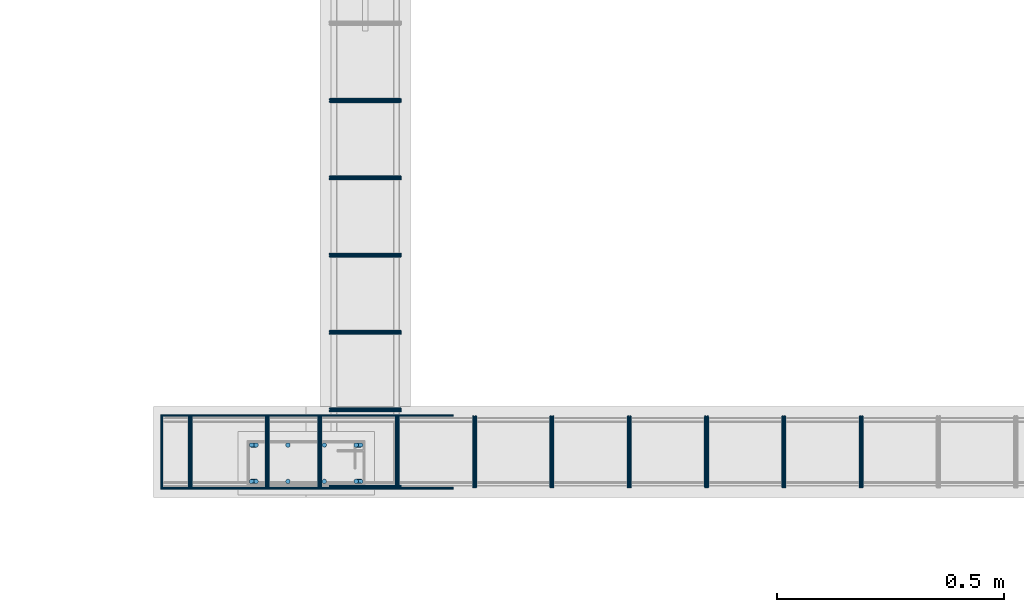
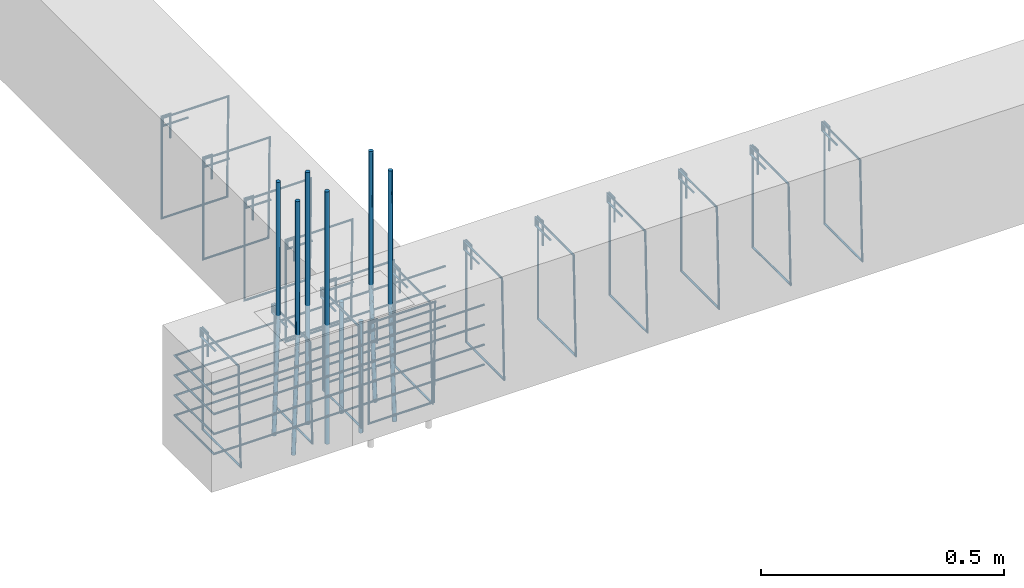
# One storey, part 19 of 150: 28 reinforcing bars.
"""IFC4 building model written with IfcOpenShell, lengths in centimetres."""

from ifc_helpers import new_model, entity, si_unit, derived_unit, frame, origin_with_axes, place, context, project, spatial, source, transform, mapped, element, save


model = new_model("IFC4")

# Units and contexts
model_context = context("Model", 3, precision=1e-05, world=origin_with_axes(), identifier="Body")
ifc_project = project(units=[si_unit("LENGTHUNIT", "METRE", prefix="CENTI"), si_unit("VOLUMEUNIT", "CUBIC_METRE"), si_unit("AREAUNIT", "SQUARE_METRE"), si_unit("POWERUNIT", "WATT"), si_unit("LUMINOUSFLUXUNIT", "LUMEN"), si_unit("ELECTRICCURRENTUNIT", "AMPERE"), si_unit("PRESSUREUNIT", "PASCAL", prefix="KILO"), si_unit("MASSUNIT", "GRAM", prefix="KILO"), si_unit("PLANEANGLEUNIT", "RADIAN"), derived_unit("VOLUMETRICFLOWRATEUNIT", [(si_unit("LENGTHUNIT", "METRE"), 3), (si_unit("TIMEUNIT", "SECOND"), -1)])], contexts=[model_context])

# Site, building, storey
site_placement = place(None, frame((-4000.0, 0.0, 0.0), z_axis=(0.0, 0.0, 1.0), x_axis=(1.0, 0.0, 0.0)))
site = spatial("IfcSite", under=ifc_project, at=site_placement, Name="PADRÃO")
building_placement = place(site_placement, frame((0.0, 0.0, -14.0)))
building = spatial("IfcBuilding", under=site, at=building_placement, Name="CRECHE PRÉ-ESCOLA TIPO 2")
placement = place(building_placement, origin_with_axes())
storey_placement = place(placement, frame((0.0, 0.0, 30.0), z_axis=(0.0, 0.0, 1.0), x_axis=(1.0, 0.0, 0.0)))
storey = spatial("IfcBuildingStorey", under=building, at=storey_placement, Name="VIGA BALDRAME", CompositionType="ELEMENT", Elevation=16.0)

# Reinforcing bars
shared_shape_1 = source(origin_with_axes(), model_context, "Body", "AdvancedSweptSolid", [
    entity("IfcSweptDiskSolid", entity("IfcCompositeCurve", [entity("IfcCompositeCurveSegment", "CONTINUOUS", True, entity("IfcPolyline", [entity("IfcCartesianPoint", [2.0, -6.0, 0.0]), entity("IfcCartesianPoint", [2.0, 0.0, 0.0])])), entity("IfcCompositeCurveSegment", "CONTINUOUS", True, entity("IfcPolyline", [entity("IfcCartesianPoint", [2.0, 0.0, 0.0]), entity("IfcCartesianPoint", [0.0, 0.0, 0.0])])), entity("IfcCompositeCurveSegment", "CONTINUOUS", True, entity("IfcPolyline", [entity("IfcCartesianPoint", [0.0, 0.0, 0.0]), entity("IfcCartesianPoint", [0.0, -25.5, 0.0])])), entity("IfcCompositeCurveSegment", "CONTINUOUS", True, entity("IfcPolyline", [entity("IfcCartesianPoint", [0.0, -25.5, 0.0]), entity("IfcCartesianPoint", [15.5, -25.5, 0.0])])), entity("IfcCompositeCurveSegment", "CONTINUOUS", True, entity("IfcPolyline", [entity("IfcCartesianPoint", [15.5, -25.5, 0.0]), entity("IfcCartesianPoint", [15.5, 0.0, 0.5])])), entity("IfcCompositeCurveSegment", "CONTINUOUS", True, entity("IfcPolyline", [entity("IfcCartesianPoint", [15.5, 0.0, 0.5]), entity("IfcCartesianPoint", [0.0, 0.0, 0.5])])), entity("IfcCompositeCurveSegment", "CONTINUOUS", True, entity("IfcPolyline", [entity("IfcCartesianPoint", [0.0, 0.0, 0.5]), entity("IfcCartesianPoint", [0.0, -2.0, 0.5])])), entity("IfcCompositeCurveSegment", "CONTINUOUS", True, entity("IfcPolyline", [entity("IfcCartesianPoint", [0.0, -2.0, 0.5]), entity("IfcCartesianPoint", [6.0, -2.0, 0.5])]))], False), 0.25),
])
for number, where, z_axis, x_axis, name in (
    (1, (240.75, 525.25, -2.25), (-1.0, 0.0, 0.0), (0.0, -1.0, 0.0), "V149 - Estribo"),
    (2, (257.75, 525.25, -2.25), (-1.0, 0.0, 0.0), (0.0, -1.0, 0.0), "V149 - Estribo"),
):
    element("IfcReinforcingBar", number, at=place(storey_placement, frame(where, z_axis=z_axis, x_axis=x_axis)), inside=storey, Name=name, BarLength=0.0, CrossSectionArea=1.9634954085e-05, NominalDiameter=0.5, PredefinedType="MAIN", context=model_context, shape_type="MappedRepresentation", body=[
        mapped(shared_shape_1, transform((0.0, 0.0, 0.0), scale=1.0)),
    ])
shared_shape_2 = source(origin_with_axes(), model_context, "Body", "AdvancedSweptSolid", [
    entity("IfcSweptDiskSolid", entity("IfcCompositeCurve", [entity("IfcCompositeCurveSegment", "CONTINUOUS", True, entity("IfcPolyline", [entity("IfcCartesianPoint", [2.0, -6.0, 0.0]), entity("IfcCartesianPoint", [2.0, 0.0, 0.0])])), entity("IfcCompositeCurveSegment", "CONTINUOUS", True, entity("IfcPolyline", [entity("IfcCartesianPoint", [2.0, 0.0, 0.0]), entity("IfcCartesianPoint", [0.0, 0.0, 0.0])])), entity("IfcCompositeCurveSegment", "CONTINUOUS", True, entity("IfcPolyline", [entity("IfcCartesianPoint", [0.0, 0.0, 0.0]), entity("IfcCartesianPoint", [0.0, -25.5, 0.0])])), entity("IfcCompositeCurveSegment", "CONTINUOUS", True, entity("IfcPolyline", [entity("IfcCartesianPoint", [0.0, -25.5, 0.0]), entity("IfcCartesianPoint", [15.5, -25.5, 0.0])])), entity("IfcCompositeCurveSegment", "CONTINUOUS", True, entity("IfcPolyline", [entity("IfcCartesianPoint", [15.5, -25.5, 0.0]), entity("IfcCartesianPoint", [15.5, 0.0, 0.5])])), entity("IfcCompositeCurveSegment", "CONTINUOUS", True, entity("IfcPolyline", [entity("IfcCartesianPoint", [15.5, 0.0, 0.5]), entity("IfcCartesianPoint", [0.0, 0.0, 0.5])])), entity("IfcCompositeCurveSegment", "CONTINUOUS", True, entity("IfcPolyline", [entity("IfcCartesianPoint", [0.0, 0.0, 0.5]), entity("IfcCartesianPoint", [0.0, -2.0, 0.5])])), entity("IfcCompositeCurveSegment", "CONTINUOUS", True, entity("IfcPolyline", [entity("IfcCartesianPoint", [0.0, -2.0, 0.5]), entity("IfcCartesianPoint", [6.0, -2.0, 0.5])]))], False), 0.25),
])
for number, where, z_axis, x_axis, name in (
    (3, (269.285, 525.25, -2.25), (-1.0, 0.0, 0.0), (0.0, -1.0, 0.0), "V149 - Estribo"),
    (4, (320.285, 525.25, -2.25), (-1.0, 0.0, 0.0), (0.0, -1.0, 0.0), "V149 - Estribo"),
    (5, (388.285, 525.25, -2.25), (-1.0, 0.0, 0.0), (0.0, -1.0, 0.0), "V149 - Estribo"),
    (6, (371.285, 525.25, -2.25), (-1.0, 0.0, 0.0), (0.0, -1.0, 0.0), "V149 - Estribo"),
    (7, (337.285, 525.25, -2.25), (-1.0, 0.0, 0.0), (0.0, -1.0, 0.0), "V149 - Estribo"),
    (8, (303.285, 525.25, -2.25), (-1.0, 0.0, 0.0), (0.0, -1.0, 0.0), "V149 - Estribo"),
    (9, (286.285, 525.25, -2.25), (-1.0, 0.0, 0.0), (0.0, -1.0, 0.0), "V149 - Estribo"),
    (10, (354.285, 525.25, -2.25), (-1.0, 0.0, 0.0), (0.0, -1.0, 0.0), "V149 - Estribo"),
):
    element("IfcReinforcingBar", number, at=place(storey_placement, frame(where, z_axis=z_axis, x_axis=x_axis)), inside=storey, Name=name, BarLength=0.0, CrossSectionArea=1.9634954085e-05, NominalDiameter=0.5, PredefinedType="MAIN", context=model_context, shape_type="MappedRepresentation", body=[
        mapped(shared_shape_2, transform((0.0, 0.0, 0.0), scale=1.0)),
    ])
shared_shape_3 = source(origin_with_axes(), model_context, "Body", "AdvancedSweptSolid", [
    entity("IfcSweptDiskSolid", entity("IfcCompositeCurve", [entity("IfcCompositeCurveSegment", "CONTINUOUS", True, entity("IfcPolyline", [entity("IfcCartesianPoint", [0.0, 0.0, 0.0]), entity("IfcCartesianPoint", [-64.2013828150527, 0.0, 0.0])])), entity("IfcCompositeCurveSegment", "CONTINUOUS", True, entity("IfcPolyline", [entity("IfcCartesianPoint", [-64.2013828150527, 0.0, 0.0]), entity("IfcCartesianPoint", [-64.2013828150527, -16.0, 0.0])])), entity("IfcCompositeCurveSegment", "CONTINUOUS", True, entity("IfcPolyline", [entity("IfcCartesianPoint", [-64.2013828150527, -16.0, 0.0]), entity("IfcCartesianPoint", [0.0, -16.0, 0.0])]))], False), 0.25),
])
for number, where, z_axis, x_axis, name in (
    (11, (298.451382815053, 525.5, -22.1), (0.0, 0.0, 1.0), (1.0, 0.0, 0.0), "V149 - Grampo"),
    (12, (298.451382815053, 525.5, -7.1), (0.0, 0.0, 1.0), (1.0, 0.0, 0.0), "V149 - Grampo"),
    (13, (298.451382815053, 525.5, -12.1), (0.0, 0.0, 1.0), (1.0, 0.0, 0.0), "V149 - Grampo"),
    (14, (298.451382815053, 525.5, -17.1), (0.0, 0.0, 1.0), (1.0, 0.0, 0.0), "V149 - Grampo"),
):
    element("IfcReinforcingBar", number, at=place(storey_placement, frame(where, z_axis=z_axis, x_axis=x_axis)), inside=storey, Name=name, BarLength=0.0, CrossSectionArea=1.9634954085e-05, NominalDiameter=0.5, PredefinedType="MAIN", context=model_context, shape_type="MappedRepresentation", body=[
        mapped(shared_shape_3, transform((0.0, 0.0, 0.0), scale=1.0)),
    ])
shared_shape_4 = source(origin_with_axes(), model_context, "Body", "AdvancedSweptSolid", [
    entity("IfcSweptDiskSolid", entity("IfcCompositeCurve", [entity("IfcCompositeCurveSegment", "CONTINUOUS", True, entity("IfcPolyline", [entity("IfcCartesianPoint", [2.0, -6.0, 0.0]), entity("IfcCartesianPoint", [2.0, 0.0, 0.0])])), entity("IfcCompositeCurveSegment", "CONTINUOUS", True, entity("IfcPolyline", [entity("IfcCartesianPoint", [2.0, 0.0, 0.0]), entity("IfcCartesianPoint", [0.0, 0.0, 0.0])])), entity("IfcCompositeCurveSegment", "CONTINUOUS", True, entity("IfcPolyline", [entity("IfcCartesianPoint", [0.0, 0.0, 0.0]), entity("IfcCartesianPoint", [0.0, -25.5, 0.0])])), entity("IfcCompositeCurveSegment", "CONTINUOUS", True, entity("IfcPolyline", [entity("IfcCartesianPoint", [0.0, -25.5, 0.0]), entity("IfcCartesianPoint", [15.5, -25.5, 0.0])])), entity("IfcCompositeCurveSegment", "CONTINUOUS", True, entity("IfcPolyline", [entity("IfcCartesianPoint", [15.5, -25.5, 0.0]), entity("IfcCartesianPoint", [15.5, 0.0, 0.5])])), entity("IfcCompositeCurveSegment", "CONTINUOUS", True, entity("IfcPolyline", [entity("IfcCartesianPoint", [15.5, 0.0, 0.5]), entity("IfcCartesianPoint", [0.0, 0.0, 0.5])])), entity("IfcCompositeCurveSegment", "CONTINUOUS", True, entity("IfcPolyline", [entity("IfcCartesianPoint", [0.0, 0.0, 0.5]), entity("IfcCartesianPoint", [0.0, -2.0, 0.5])])), entity("IfcCompositeCurveSegment", "CONTINUOUS", True, entity("IfcPolyline", [entity("IfcCartesianPoint", [0.0, -2.0, 0.5]), entity("IfcCartesianPoint", [6.0, -2.0, 0.5])]))], False), 0.25),
])
for number, where, z_axis, x_axis, name in (
    (15, (271.25, 578.0, -2.25), (0.0, -1.0, 0.0), (1.0, 0.0, 0.0), "V160 - Estribo"),
    (16, (271.25, 595.0, -2.25), (0.0, -1.0, 0.0), (1.0, 0.0, 0.0), "V160 - Estribo"),
    (17, (271.25, 510.0, -2.25), (0.0, -1.0, 0.0), (1.0, 0.0, 0.0), "V160 - Estribo"),
    (18, (271.25, 527.0, -2.25), (0.0, -1.0, 0.0), (1.0, 0.0, 0.0), "V160 - Estribo"),
    (19, (271.25, 544.0, -2.25), (0.0, -1.0, 0.0), (1.0, 0.0, 0.0), "V160 - Estribo"),
    (20, (271.25, 561.0, -2.25), (0.0, -1.0, 0.0), (1.0, 0.0, 0.0), "V160 - Estribo"),
):
    element("IfcReinforcingBar", number, at=place(storey_placement, frame(where, z_axis=z_axis, x_axis=x_axis)), inside=storey, Name=name, BarLength=0.0, CrossSectionArea=1.9634954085e-05, NominalDiameter=0.5, PredefinedType="MAIN", context=model_context, shape_type="MappedRepresentation", body=[
        mapped(shared_shape_4, transform((0.0, 0.0, 0.0), scale=1.0)),
    ])
reinforcing_bar_1_placement = place(storey_placement, frame((270.0, 519.0, -2.0), z_axis=(0.0, 0.0, 1.0), x_axis=(1.0, 0.0, 0.0)))
element("IfcReinforcingBar", 21, at=reinforcing_bar_1_placement, inside=storey, Name="P135 - Longitudinal", BarLength=0.0, CrossSectionArea=7.853981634e-05, NominalDiameter=1.0, PredefinedType="MAIN", context=model_context, shape_type="AdvancedSweptSolid", body=[
    entity("IfcSweptDiskSolid", entity("IfcCompositeCurve", [entity("IfcCompositeCurveSegment", "CONTINUOUS", True, entity("IfcPolyline", [entity("IfcCartesianPoint", [0.0, 0.0, -28.0]), entity("IfcCartesianPoint", [0.0, 0.0, 0.0])]))], False), 0.5),
])
reinforcing_bar_2_placement = place(storey_placement, frame((262.0, 519.0, 33.3573001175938), z_axis=(0.0, 0.0, 1.0), x_axis=(1.0, 0.0, 0.0)))
element("IfcReinforcingBar", 22, at=reinforcing_bar_2_placement, inside=storey, Name="P135 - Longitudinal", BarLength=0.0, CrossSectionArea=7.853981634e-05, NominalDiameter=1.0, PredefinedType="MAIN", context=model_context, shape_type="AdvancedSweptSolid", body=[
    entity("IfcSweptDiskSolid", entity("IfcCompositeCurve", [entity("IfcCompositeCurveSegment", "CONTINUOUS", True, entity("IfcPolyline", [entity("IfcCartesianPoint", [0.0, 0.0, -63.3573001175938]), entity("IfcCartesianPoint", [0.0, 0.0, 0.0])]))], False), 0.5),
])
reinforcing_bar_3_placement = place(storey_placement, frame((270.0, 511.0, -2.0), z_axis=(0.0, 0.0, 1.0), x_axis=(1.0, 0.0, 0.0)))
element("IfcReinforcingBar", 23, at=reinforcing_bar_3_placement, inside=storey, Name="P135 - Longitudinal", BarLength=0.0, CrossSectionArea=7.853981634e-05, NominalDiameter=1.0, PredefinedType="MAIN", context=model_context, shape_type="AdvancedSweptSolid", body=[
    entity("IfcSweptDiskSolid", entity("IfcCompositeCurve", [entity("IfcCompositeCurveSegment", "CONTINUOUS", True, entity("IfcPolyline", [entity("IfcCartesianPoint", [0.0, 0.0, -28.0]), entity("IfcCartesianPoint", [0.0, 0.0, 0.0])]))], False), 0.5),
])
for number, where, z_axis, x_axis, name in (
    (24, (277.499861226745, 519.0, 33.3573001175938), (0.0, 0.0, 1.0), (1.0, 0.0, 0.0), "P135 - Longitudinal"),
    (25, (277.499861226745, 511.0, 33.3573001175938), (0.0, 0.0, 1.0), (1.0, 0.0, 0.0), "P135 - Longitudinal"),
):
    element("IfcReinforcingBar", number, at=place(storey_placement, frame(where, z_axis=z_axis, x_axis=x_axis)), inside=storey, Name=name, BarLength=0.0, CrossSectionArea=7.853981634e-05, NominalDiameter=1.0, PredefinedType="MAIN", context=model_context, shape_type="AdvancedSweptSolid", body=[
        entity("IfcSweptDiskSolid", entity("IfcCompositeCurve", [entity("IfcCompositeCurveSegment", "CONTINUOUS", True, entity("IfcPolyline", [entity("IfcCartesianPoint", [0.50013877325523, 0.0, -63.3573001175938]), entity("IfcCartesianPoint", [-0.49986122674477, 0.0, -33.3573001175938])])), entity("IfcCompositeCurveSegment", "CONTINUOUS", True, entity("IfcPolyline", [entity("IfcCartesianPoint", [-0.49986122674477, 0.0, -33.3573001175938]), entity("IfcCartesianPoint", [-0.49986122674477, 0.0, 0.0])]))], False), 0.5),
    ])
reinforcing_bar_4_placement = place(storey_placement, frame((262.0, 511.0, 33.3573001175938), z_axis=(0.0, 0.0, 1.0), x_axis=(1.0, 0.0, 0.0)))
element("IfcReinforcingBar", 26, at=reinforcing_bar_4_placement, inside=storey, Name="P135 - Longitudinal", BarLength=0.0, CrossSectionArea=7.853981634e-05, NominalDiameter=1.0, PredefinedType="MAIN", context=model_context, shape_type="AdvancedSweptSolid", body=[
    entity("IfcSweptDiskSolid", entity("IfcCompositeCurve", [entity("IfcCompositeCurveSegment", "CONTINUOUS", True, entity("IfcPolyline", [entity("IfcCartesianPoint", [0.0, 0.0, -63.3573001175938]), entity("IfcCartesianPoint", [0.0, 0.0, 0.0])]))], False), 0.5),
])
for number, where, z_axis, x_axis, name in (
    (27, (254.500138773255, 511.0, 33.3573001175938), (0.0, 0.0, 1.0), (1.0, 0.0, 0.0), "P135 - Longitudinal"),
    (28, (254.500138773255, 519.0, 33.3573001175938), (0.0, 0.0, 1.0), (1.0, 0.0, 0.0), "P135 - Longitudinal"),
):
    element("IfcReinforcingBar", number, at=place(storey_placement, frame(where, z_axis=z_axis, x_axis=x_axis)), inside=storey, Name=name, BarLength=0.0, CrossSectionArea=7.853981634e-05, NominalDiameter=1.0, PredefinedType="MAIN", context=model_context, shape_type="AdvancedSweptSolid", body=[
        entity("IfcSweptDiskSolid", entity("IfcCompositeCurve", [entity("IfcCompositeCurveSegment", "CONTINUOUS", True, entity("IfcPolyline", [entity("IfcCartesianPoint", [-0.50013877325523, 0.0, -63.3573001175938]), entity("IfcCartesianPoint", [0.49986122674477, 0.0, -33.3573001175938])])), entity("IfcCompositeCurveSegment", "CONTINUOUS", True, entity("IfcPolyline", [entity("IfcCartesianPoint", [0.49986122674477, 0.0, -33.3573001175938]), entity("IfcCartesianPoint", [0.49986122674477, 0.0, 0.0])]))], False), 0.5),
    ])

save(model, "model.ifc")
